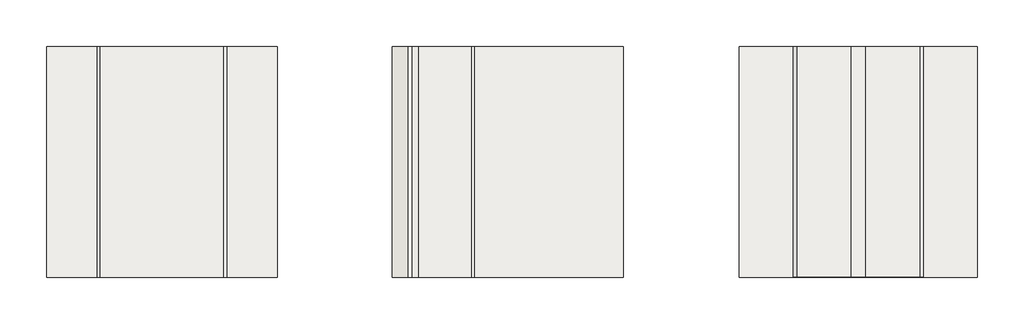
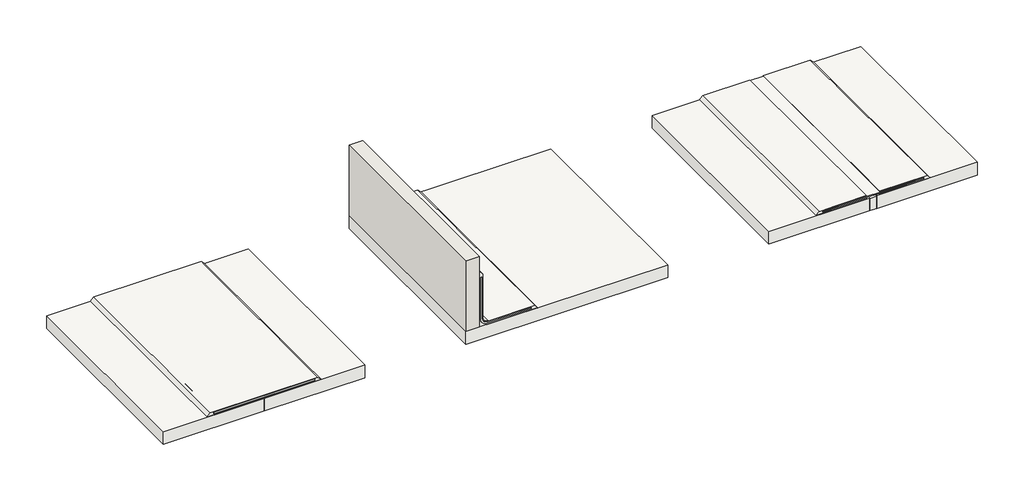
# One storey: 6 slabs, 3 coverings, 1 wall.
"""IFC4 building model written with IfcOpenShell, lengths in millimetres."""

from ifc_helpers import new_model, si_unit, frame, origin, origin_with_axes, place, context, project, spatial, polyline, outline, extrude, transform, mapped, element, save
from components import covering_e6b65a22, covering_1b49ee62, covering_15a9058b, joint_joint_ec7e8ac8

model = new_model("IFC4")

# Units and contexts
model_context = context("Model", 3, world=origin())
ifc_project = project(units=[si_unit("LENGTHUNIT", "METRE", prefix="MILLI")], contexts=[model_context])

# Site, building, storey
site = spatial("IfcSite", under=ifc_project)
building = spatial("IfcBuilding", under=site)
storey = spatial("IfcBuildingStorey", under=building, Name="Sikadur Combiflex® SG System (Junta de construcción y grietas)", Elevation=0.0)

# Coverings
placement = place(None, origin())
covering_shape = covering_e6b65a22(model_context)
element("IfcCovering", 1, ObjectType="Sikadur-Combiflex® SG System (Junta de movimiento) : CINTA Sikadur-Combiflex® SG-10 P, ANCHO 15 cm", at=placement, inside=storey, context=model_context, shape_type="MappedRepresentation", body=[
    mapped(covering_shape, transform((3317.1463073, 3689.7175244, 0.0), x_axis=(0.0, -1.0, 0.0), y_axis=(1.0, 0.0, 0.0), z_axis=(0.0, 0.0, 1.0))),
])
covering_2_shape = covering_1b49ee62(model_context)
element("IfcCovering", 2, ObjectType="Sikadur-Combiflex® SG System (Junta de construcción y grietas) (Longitudinal) : CINTA Sikadur-Combiflex® SG-10 P, ANCHO 15 cm", at=placement, inside=storey, context=model_context, shape_type="MappedRepresentation", body=[
    mapped(covering_2_shape, transform((2732.4326299, 3389.7175244, 0.0), x_axis=(0.0, 1.0, 0.0), y_axis=(-1.0, 0.0, 0.0), z_axis=(0.0, 0.0, 1.0))),
])
covering_3_shape = covering_15a9058b(model_context)
element("IfcCovering", 3, ObjectType="Sikadur-Combiflex® SG System (Junta de construcción y grietas) : CINTA Sikadur-Combiflex® SG-20 P, ANCHO 15 cm", at=placement, inside=storey, context=model_context, shape_type="MappedRepresentation", body=[
    mapped(covering_3_shape, transform((2413.005275, 3689.7175244, 0.0), x_axis=(0.0, -1.0, 0.0), y_axis=(1.0, 0.0, 0.0), z_axis=(0.0, 0.0, 1.0))),
])

# Slabs
joint_joint_shape = joint_joint_ec7e8ac8(model_context)
element("IfcSlab", 4, ObjectType="Joint : Joint", at=placement, inside=storey, context=model_context, shape_type="MappedRepresentation", body=[
    mapped(joint_joint_shape, transform((0.0, 0.0, 0.0), x_axis=(1.0, 0.0, 0.0), y_axis=(0.0, 1.0, 0.0), z_axis=(0.0, 0.0, 1.0))),
])
element("IfcSlab", 5, ObjectType="Suelo 1", at=placement, inside=storey, context=model_context, shape_type="SweptSolid", body=[
    extrude(outline(polyline([(2413.005275, 3689.7175244), (2413.005275, 3389.7175244), (2263.2915976, 3389.7175244), (2263.2915976, 3689.7175244), (2413.005275, 3689.7175244)])), frame((0.0, 0.0, -20.0), z_axis=(0.0, 0.0, 1.0), x_axis=(1.0, 0.0, 0.0)), (0.0, 0.0, 1.0), 20.0),
])
element("IfcSlab", 6, ObjectType="Suelo 1", at=placement, inside=storey, context=model_context, shape_type="SweptSolid", body=[
    extrude(outline(polyline([(2562.7189525, 3689.7175244), (2562.7189525, 3389.7175244), (2413.005275, 3389.7175244), (2413.005275, 3689.7175244), (2562.7189525, 3689.7175244)])), frame((0.0, 0.0, -20.0), z_axis=(0.0, 0.0, 1.0), x_axis=(1.0, 0.0, 0.0)), (0.0, 0.0, 1.0), 20.0),
])
element("IfcSlab", 7, ObjectType="Suelo 1", at=placement, inside=storey, context=model_context, shape_type="SweptSolid", body=[
    extrude(outline(polyline([(3011.8599848, 3689.7175244), (3011.8599848, 3389.7175244), (2712.4326299, 3389.7175244), (2712.4326299, 3689.7175244), (3011.8599848, 3689.7175244)])), frame((0.0, 0.0, -20.0), z_axis=(0.0, 0.0, 1.0), x_axis=(1.0, 0.0, 0.0)), (0.0, 0.0, 1.0), 20.0),
])
element("IfcSlab", 8, ObjectType="Suelo 1", at=placement, inside=storey, context=model_context, shape_type="SweptSolid", body=[
    extrude(outline(polyline([(3312.1463073, 3689.7175244), (3312.1463073, 3389.7175244), (3162.4326299, 3389.7175244), (3162.4326299, 3689.7175244), (3312.1463073, 3689.7175244)])), frame((0.0, 0.0, -20.0), z_axis=(0.0, 0.0, 1.0), x_axis=(1.0, 0.0, 0.0)), (0.0, 0.0, 1.0), 20.0),
])
element("IfcSlab", 9, ObjectType="Suelo 1", at=placement, inside=storey, context=model_context, shape_type="SweptSolid", body=[
    extrude(outline(polyline([(3471.8599848, 3689.7175244), (3471.8599848, 3389.7175244), (3322.1463073, 3389.7175244), (3322.1463073, 3689.7175244), (3471.8599848, 3689.7175244)])), frame((0.0, 0.0, -20.0), z_axis=(0.0, 0.0, 1.0), x_axis=(1.0, 0.0, 0.0)), (0.0, 0.0, 1.0), 20.0),
])

# Wall
element("IfcWall", 10, ObjectType="Muro 1", at=placement, inside=storey, context=model_context, shape_type="SweptSolid", body=[
    extrude(outline(polyline([(2732.4326299, 3689.7175244), (2732.4326299, 3389.7175244), (2712.4326299, 3389.7175244), (2712.4326299, 3689.7175244), (2732.4326299, 3689.7175244)])), origin_with_axes(), (0.0, 0.0, 1.0), 110.6850945),
])

save(model, "model.ifc")
